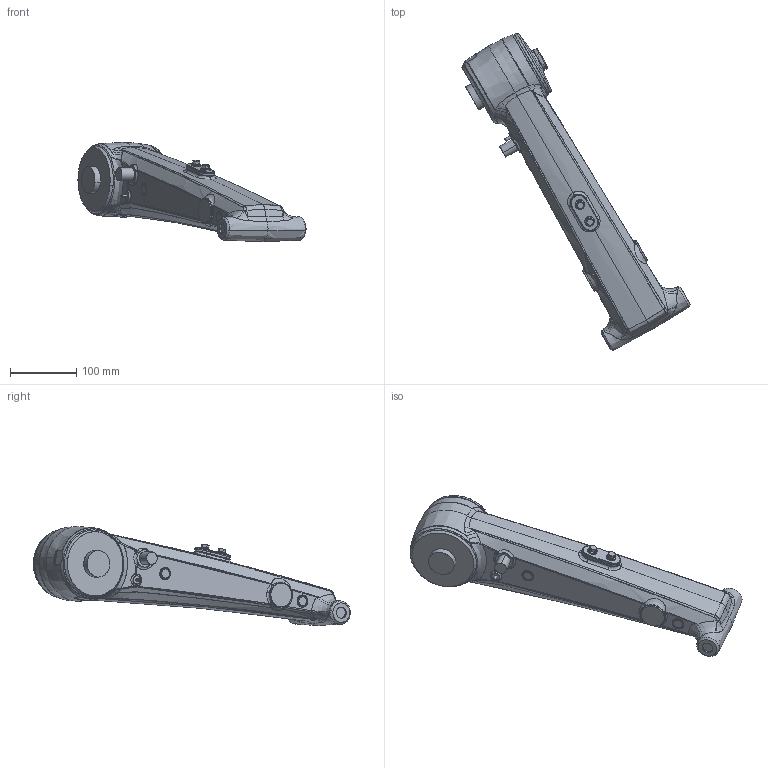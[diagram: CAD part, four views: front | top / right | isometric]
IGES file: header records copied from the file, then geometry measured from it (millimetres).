
Start section: SolidWorks IGES file using analytic representation for surfaces
Global section: file name: C:\Data\SAP_DOC_20200123_IRB390\Lättmodeller_IRB390\Final_4axis\IRB390_15kg_1300_STD_rev0_IGES_J\IRB390_X_1300_STD_UA3_00.IGS; native system: SolidWorks 2018; preprocessor: SolidWorks 2018; author: sestdan2; date: 200204.160723; units: millimetre
Bounding box: 344.39 x 478.79 x 149.77 mm (x, y, z)
Surface area: 166723.6 mm2 (no closed solid volume)
Topology: 0 solids, 0 shells, 356 faces, 4782 edges, 4779 vertices
Faces by surface type: bspline 255, revolution 101
